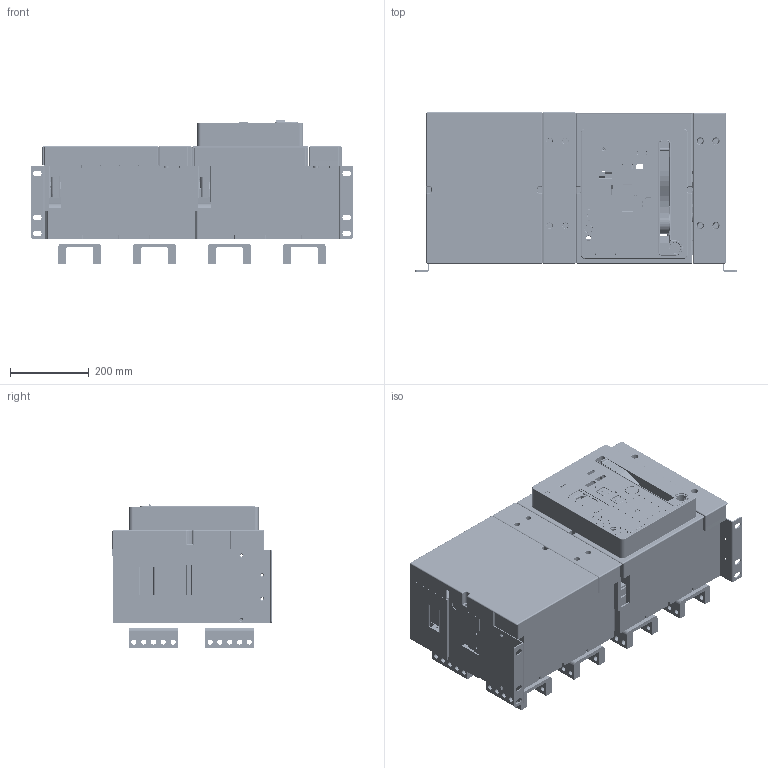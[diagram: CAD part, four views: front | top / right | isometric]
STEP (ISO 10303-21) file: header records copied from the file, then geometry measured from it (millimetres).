
FILE_DESCRIPTION((''),'2;1');
FILE_NAME('HG_22_C504V_FIX_ASM_ASM','2019-03-29T',('HHI'),(''),'PRO/ENGINEER BY PARAMETRIC TECHNOLOGY CORPORATION, 2012453','PRO/ENGINEER BY PARAMETRIC TECHNOLOGY CORPORATION, 2012453','');
FILE_SCHEMA(('CONFIG_CONTROL_DESIGN'));
Products named in the file (29): PRT0149; PRT0150; PRT0151; PRT0153; PRT0154; PRT0155; PRT0156; ASM0050_ASM; PRT0157; PRT0158; PRT0159; ASM0051_ASM; PRT0162; PRT0163; ASM0049_ASM; PRT0164; ASM0048_ASM; PRT0165; PRT0166; ASM0047_ASM; PRT0167; PRT0168; ASM0046_ASM; PRT0169; C504V_FIX_ASM_2_ASM; HG_FRONT_COVER_20; 4AT-06477S03; 4AT-06477S04; HG_22_C504V_FIX_ASM_ASM
Assembly tree (44 placements, depth 8):
  HG_22_C504V_FIX_ASM_ASM
    C504V_FIX_ASM_2_ASM
      ASM0046_ASM
        PRT0149  x2
        PRT0150  x2
        PRT0151  x8
        ASM0047_ASM
          ASM0048_ASM
            ASM0049_ASM
              ASM0050_ASM
                PRT0153
                PRT0154
                PRT0155
                PRT0156
              ASM0051_ASM
                PRT0157
                PRT0158
                PRT0159
              PRT0162
              PRT0163
            PRT0164
          PRT0165
          PRT0166
        PRT0167
        PRT0168
      PRT0169  x8
    HG_FRONT_COVER_20
    4AT-06477S03
    4AT-06477S04
Bounding box: 819.4 x 406 x 366.23 mm (x, y, z)
Volume: 17203067.5 mm3; surface area: 5809193.9 mm2
Topology: 37 solids, 70 shells, 11902 faces, 33132 edges, 21712 vertices
Faces by surface type: plane 7914, cylinder 3145, torus 273, cone 213, extrusion 175, sphere 101, bspline 81
Entity records: 261842 total; most frequent: CARTESIAN_POINT 53186, ORIENTED_EDGE 44174, DIRECTION 41964, EDGE_CURVE 22230, VECTOR 16668, LINE 16493, VERTEX_POINT 14559, AXIS2_PLACEMENT_3D 12648
